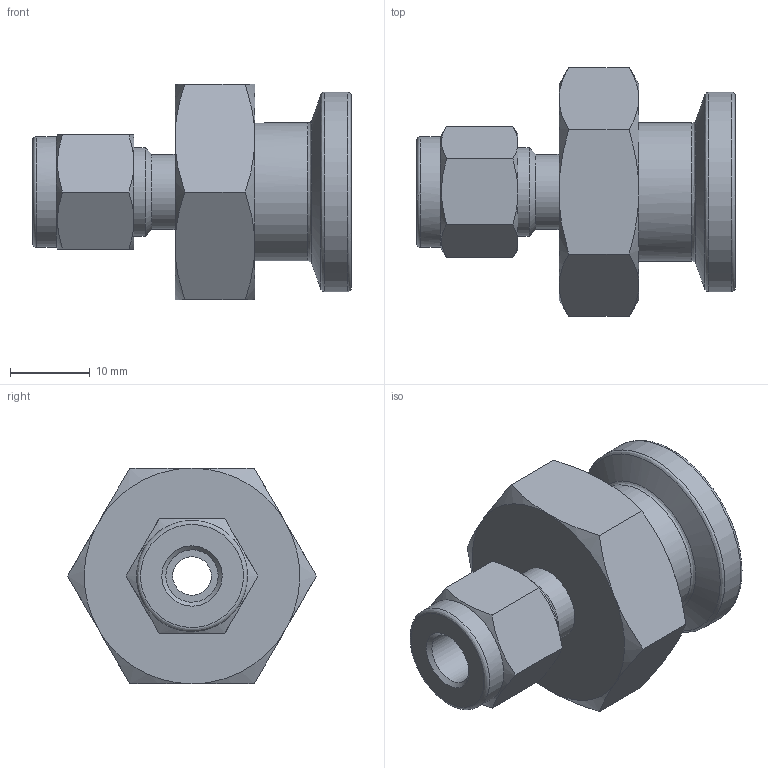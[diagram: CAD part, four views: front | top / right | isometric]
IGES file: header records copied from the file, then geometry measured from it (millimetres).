
Global section: file name: SSFA-4-8SA; native system: Autodesk Inventor 2016; preprocessor: unknown; author: DESIGNPC2; date: 20160312.140232; units: millimetre
Bounding box: 39.94 x 31.18 x 27 mm (x, y, z)
Volume: 11003.9 mm3; surface area: 5097.9 mm2
Topology: 1 solids, 1 shells, 59 faces, 159 edges, 107 vertices
Faces by surface type: bspline 59
